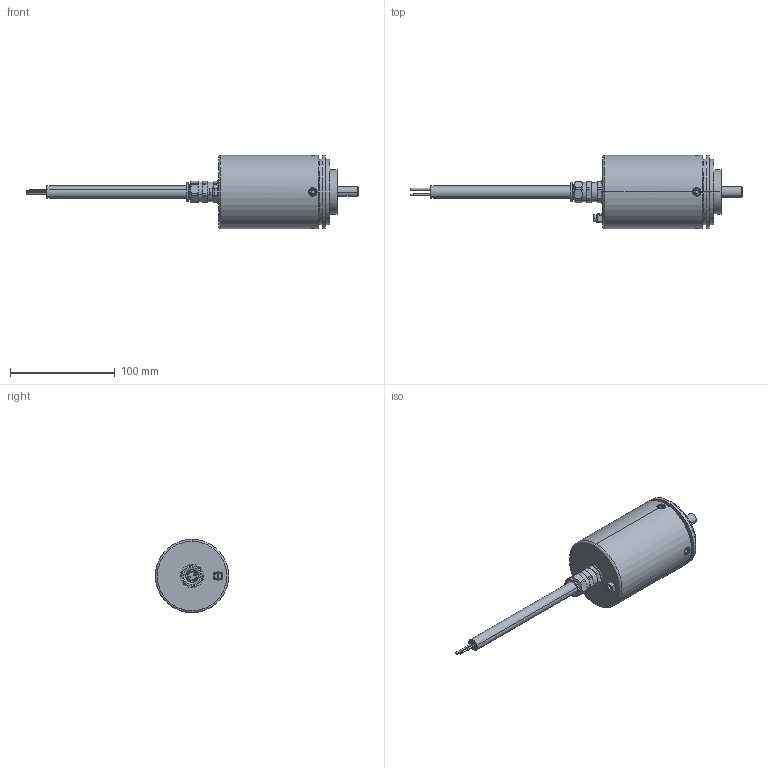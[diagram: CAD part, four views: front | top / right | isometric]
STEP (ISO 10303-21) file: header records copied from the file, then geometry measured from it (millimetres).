
FILE_DESCRIPTION (( 'STEP AP203' ), '1' );
FILE_NAME ('8.7000.12X1.XXXX.STEP', '2013-11-20T08:20:05', ( 'LauferA' ), ( 'Microsoft' ), 'SwSTEP 2.0', 'SolidWorks 2013', '' );
FILE_SCHEMA (( 'CONFIG_CONTROL_DESIGN' ));
Length unit declared in the file: millimetre
Products named in the file (1): 8.7000.12X1.XXXX
Bounding box: 316.3 x 70 x 70 mm (x, y, z)
Volume: 277648.8 mm3; surface area: 96981.8 mm2
Topology: 21 solids, 21 shells, 1000 faces, 2404 edges, 1487 vertices
Faces by surface type: cylinder 387, plane 345, cone 167, torus 81, sphere 20
Entity records: 29997 total; most frequent: CARTESIAN_POINT 6408, DIRECTION 5228, ORIENTED_EDGE 4648, EDGE_CURVE 2324, AXIS2_PLACEMENT_3D 2029, VERTEX_POINT 1457, LINE 1170, VECTOR 1170
